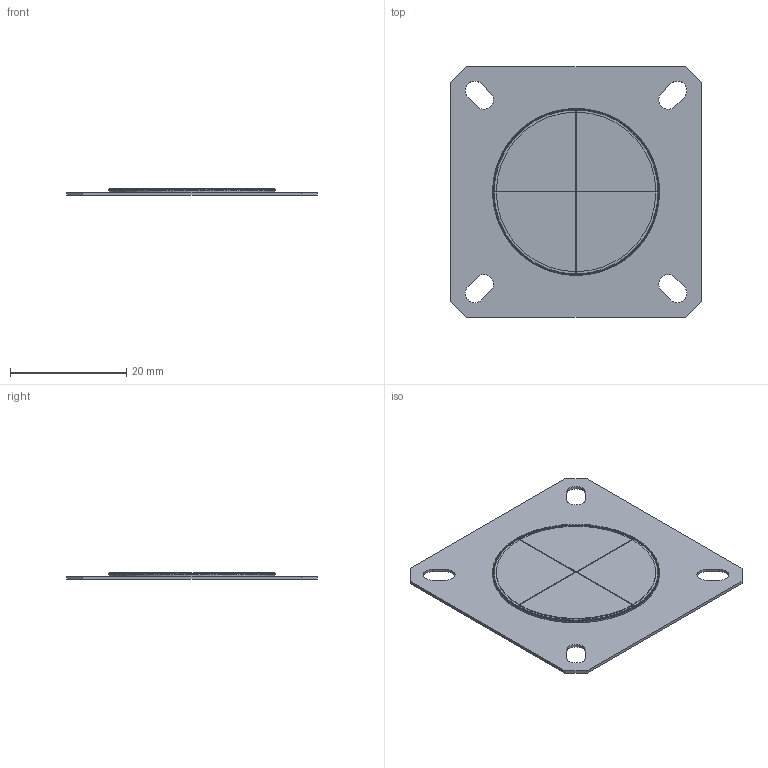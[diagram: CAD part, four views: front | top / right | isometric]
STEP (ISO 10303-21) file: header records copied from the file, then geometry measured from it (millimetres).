
FILE_DESCRIPTION((''),'2;1');
FILE_NAME('PROTO_INSERT_SIM_DUMMY-23','2020-10-15T11:20:53',('ccole'),(''),'CREO PARAMETRIC BY PTC INC, 2019292','CREO PARAMETRIC BY PTC INC, 2019292','');
FILE_SCHEMA(('CONFIG_CONTROL_DESIGN'));
Length unit declared in the file: inch
Products named in the file (1): PROTO_INSERT_SIM_DUMMY-23
Bounding box: 43.21 x 43.21 x 1.14 mm (x, y, z)
Volume: 1230.1 mm3; surface area: 3787.1 mm2
Topology: 1 solids, 1 shells, 1147 faces, 3423 edges, 2279 vertices
Faces by surface type: plane 581, cylinder 566
Entity records: 42253 total; most frequent: CARTESIAN_POINT 14560, ORIENTED_EDGE 6846, DIRECTION 4309, EDGE_CURVE 3423, VERTEX_POINT 2279, B_SPLINE_CURVE_WITH_KNOTS 1811, AXIS2_PLACEMENT_3D 1550, VECTOR 1209
